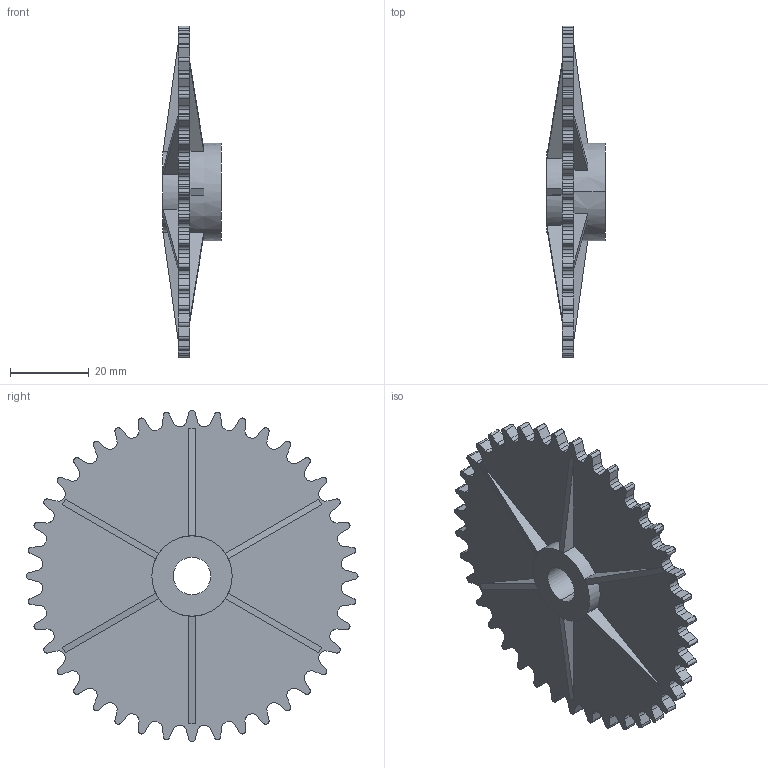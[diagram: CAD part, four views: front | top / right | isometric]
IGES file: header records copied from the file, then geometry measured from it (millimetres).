
Global section: file name: C:\Documents and Settings\Administrator\Desktop\Transfer Temp\rcs-40.igs; native system: AutoDesk Inventor R2.0 ; preprocessor: AutoDesk Inventor Iges Exporter R2.0; author: No Author specified; organization: No Organization specified; date: 20011229.132202; units: inch
Bounding box: 14.71 x 84.07 x 84.07 mm (x, y, z)
Surface area: 13448.6 mm2 (no closed solid volume)
Topology: 0 solids, 0 shells, 366 faces, 2172 edges, 2172 vertices
Faces by surface type: revolution 246, bspline 120
